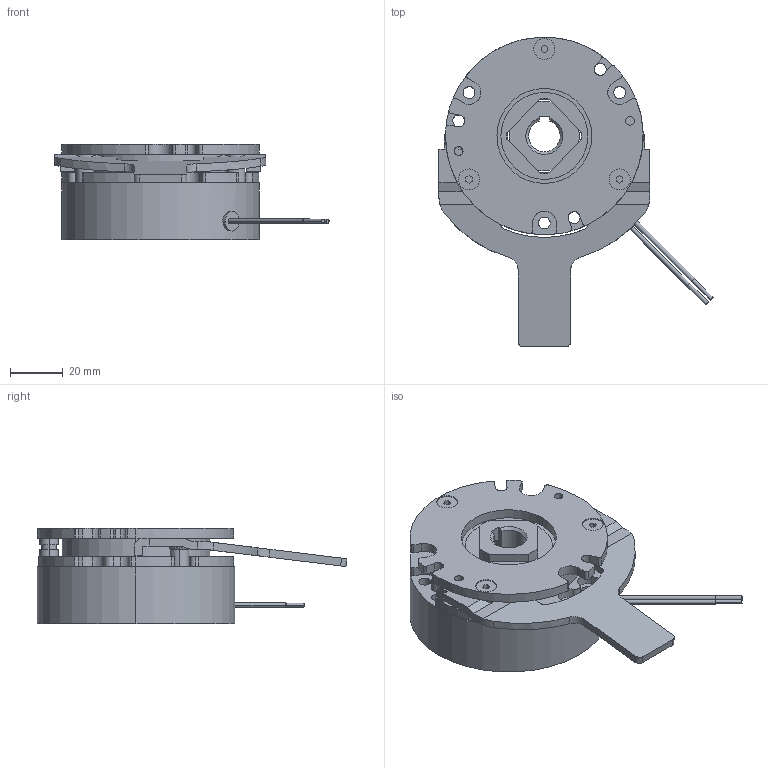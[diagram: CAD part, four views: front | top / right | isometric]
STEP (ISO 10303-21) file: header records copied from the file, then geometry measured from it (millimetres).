
FILE_DESCRIPTION (( 'STEP AP214' ), '1' );
FILE_NAME ('BXW-05-12S-12.STEP', '2018-10-23T00:50:44', ( 'MIKI' ), ( '' ), 'SwSTEP 2.0', 'SolidWorks 2012', '' );
FILE_SCHEMA (( 'AUTOMOTIVE_DESIGN' ));
Length unit declared in the file: millimetre
Products named in the file (1): BXW-05-12S-12
Bounding box: 104.01 x 117.5 x 36.1 mm (x, y, z)
Volume: 128546.5 mm3; surface area: 41132.9 mm2
Topology: 3 solids, 3 shells, 378 faces, 1005 edges, 652 vertices
Faces by surface type: cylinder 187, plane 165, cone 18, torus 8
Entity records: 16289 total; most frequent: CARTESIAN_POINT 2378, DIRECTION 2099, ORIENTED_EDGE 2002, EDGE_CURVE 1001, AXIS2_PLACEMENT_3D 765, VERTEX_POINT 652, LINE 569, VECTOR 569
